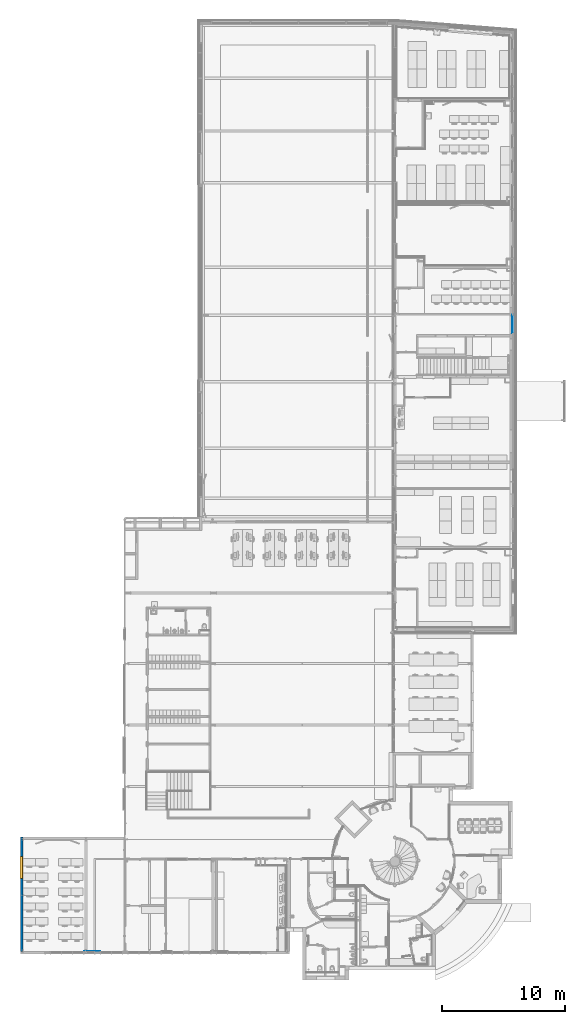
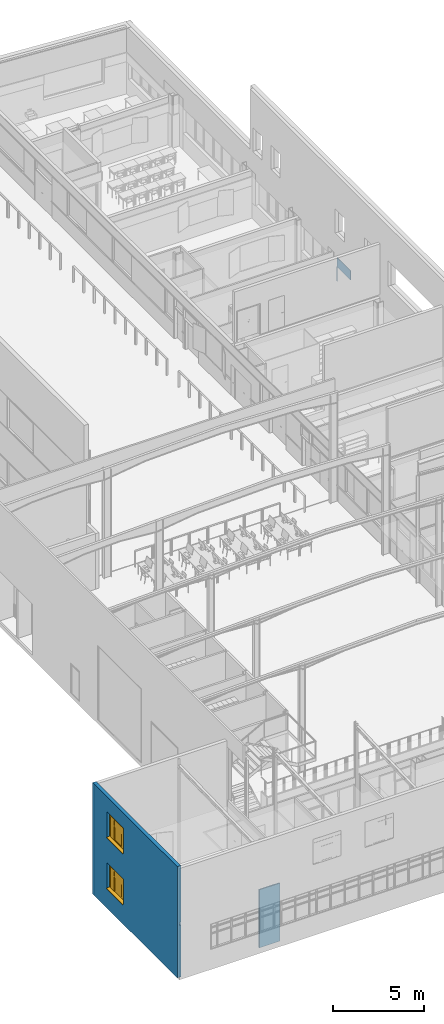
"""IFC2X3 building model written with IfcOpenShell, lengths in centimetres."""

from ifc_helpers import new_model, entity, si_unit, converted_unit, derived_unit, direction, frame, frame_2d, origin, place, context, subcontext, project, spatial, polyline, rectangle, outline, extrude, clip, bounded_halfspace, faceted_brep, source, transform, mapped, material, layer, layer_set, layer_usage, type_object, type_shapes, element, fill, aggregate, save


model = new_model("IFC2X3")

# Units and contexts
model_context = context("Model", 3, precision=0.001, world=origin(), true_north=direction((6.12303176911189e-17, 1.0)))
body_context = subcontext(model_context, "Body", "Model", "MODEL_VIEW")
ifc_project = project(units=[si_unit("LENGTHUNIT", "METRE", prefix="CENTI"), si_unit("AREAUNIT", "SQUARE_METRE"), si_unit("VOLUMEUNIT", "CUBIC_METRE"), converted_unit("PLANEANGLEUNIT", "DEGREE", entity("IfcRatioMeasure", 0.0174532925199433), si_unit("PLANEANGLEUNIT", "RADIAN"), dimensions=[0, 0, 0, 0, 0, 0, 0]), si_unit("MASSUNIT", "GRAM", prefix="KILO"), si_unit("TIMEUNIT", "SECOND"), si_unit("FREQUENCYUNIT", "HERTZ"), si_unit("THERMODYNAMICTEMPERATUREUNIT", "DEGREE_CELSIUS"), derived_unit("THERMALTRANSMITTANCEUNIT", [(si_unit("MASSUNIT", "GRAM", prefix="KILO"), 1), (si_unit("THERMODYNAMICTEMPERATUREUNIT", "KELVIN"), -1), (si_unit("TIMEUNIT", "SECOND"), -3)]), derived_unit("VOLUMETRICFLOWRATEUNIT", [(si_unit("LENGTHUNIT", "METRE"), 3), (si_unit("TIMEUNIT", "SECOND"), -1)]), si_unit("ELECTRICCURRENTUNIT", "AMPERE"), si_unit("ELECTRICVOLTAGEUNIT", "VOLT"), si_unit("POWERUNIT", "WATT"), si_unit("FORCEUNIT", "NEWTON", prefix="KILO"), si_unit("ILLUMINANCEUNIT", "LUX"), si_unit("LUMINOUSFLUXUNIT", "LUMEN"), si_unit("LUMINOUSINTENSITYUNIT", "CANDELA"), derived_unit("USERDEFINED", [(si_unit("MASSUNIT", "GRAM", prefix="KILO"), -1), (si_unit("LENGTHUNIT", "METRE"), -2), (si_unit("TIMEUNIT", "SECOND"), 3), (si_unit("LUMINOUSFLUXUNIT", "LUMEN"), 1)]), derived_unit("LINEARVELOCITYUNIT", [(si_unit("LENGTHUNIT", "METRE"), 1), (si_unit("TIMEUNIT", "SECOND"), -1)]), si_unit("PRESSUREUNIT", "PASCAL"), derived_unit("USERDEFINED", [(si_unit("LENGTHUNIT", "METRE"), -2), (si_unit("MASSUNIT", "GRAM", prefix="KILO"), 1), (si_unit("TIMEUNIT", "SECOND"), -2)])], contexts=[model_context])

# Site, building, storey
site_placement = place(None, frame((8.62739174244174, -249.285249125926, 0.0)))
site = spatial("IfcSite", under=ifc_project, at=site_placement, Name="Default", CompositionType="ELEMENT")
building_placement = place(site_placement, origin())
building = spatial("IfcBuilding", under=site, at=building_placement, CompositionType="ELEMENT")
storey_1_placement = place(building_placement, origin())
storey_1 = spatial("IfcBuildingStorey", under=building, at=storey_1_placement, Name="RDC", CompositionType="ELEMENT", Elevation=-8.82465566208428e-11)

# Curtain wall, plate
curtain_wall_type = type_object("IfcCurtainWallType", Name="Mur-rideau:Simple panneau", PredefinedType="NOTDEFINED")
curtain_wall_placement = place(storey_1_placement, origin())
curtain_wall = element("IfcCurtainWall", 1, at=curtain_wall_placement, inside=storey_1, type_object=curtain_wall_type, Name="Mur-rideau:Simple panneau", ObjectType="Mur-rideau:Simple panneau")
ifc_material_1 = material(Name="Verre")
plate_type = type_object("IfcPlateType", Name="Vitré", PredefinedType="CURTAIN_PANEL", material=ifc_material_1)
shared_shape_1 = source(origin(), body_context, "Body", "Brep", [
    faceted_brep([(5.0, 0.0, 0.0), (0.0, 0.0, 0.0), (0.0, 0.0, 98.0), (151.0, 0.0, 98.0), (151.0, 0.0, 160.0), (5.0, 0.0, 160.0), (5.0, 4.0, 0.0), (5.0, 4.0, 160.0), (151.0, 4.0, 160.0), (151.0, 4.0, 98.0), (0.0, 4.0, 98.0), (0.0, 4.0, 0.0)], [[[0, 1, 2, 3, 4, 5]], [[6, 7, 8, 9, 10, 11]], [[1, 0, 6, 11]], [[2, 1, 11, 10]], [[3, 2, 10, 9]], [[4, 3, 9, 8]], [[5, 4, 8, 7]], [[0, 5, 7, 6]]]),
])
type_shapes(plate_type, [shared_shape_1])
plate_placement = place(curtain_wall_placement, frame((3999.40482781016, 5197.9802081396, 115.0), z_axis=(0.0, 0.0, 1.0), x_axis=(0.0, -1.0, 0.0)))
plate = element("IfcPlate", 2, at=plate_placement, type_object=plate_type, material=ifc_material_1, Name="Panneau système:Vitré", ObjectType="Vitré", context=body_context, shape_type="MappedRepresentation", body=[
    mapped(shared_shape_1, transform((0.0, 0.0, 0.0), scale=1.0)),
])
aggregate(curtain_wall, [plate])

# Wall
ifc_material_2 = material(Name="Plâtre EXISTANT")
ifc_layer_1 = layer(ifc_material_2, 7.0)
ifc_layer_set_1 = layer_set([ifc_layer_1], Name="Mur de base:PLA EXISTANT 7")
ifc_layer_usage_1 = layer_usage(ifc_layer_set_1, "AXIS2", "NEGATIVE", 3.5)
wall_type_1 = type_object("IfcWallType", Name="Mur de base:PLA EXISTANT 7", PredefinedType="STANDARD", material=ifc_layer_set_1)
wall_1_placement = place(storey_1_placement, frame((516.500000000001, 18.4999999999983, 0.0)))
element("IfcWallStandardCase", 3, at=wall_1_placement, inside=storey_1, type_object=wall_type_1, material=ifc_layer_usage_1, Name="Mur de base:PLA EXISTANT 7", ObjectType="Mur de base:PLA EXISTANT 7", context=body_context, shape_type="SweptSolid", body=[
    extrude(rectangle(XDim=130.0, YDim=7.0, at=frame_2d((64.9999999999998, 0.0), x_axis=(-1.0, 0.0))), origin(), (0.0, 0.0, 1.0), 390.0),
])

# Wall, openings, window
ifc_material_3 = material(Name="Tôle/Doublage")
ifc_layer_2 = layer(ifc_material_3, 4.0)
ifc_material_4 = material(Name="Laine minérale")
ifc_layer_3 = layer(ifc_material_4, 16.0)
ifc_material_5 = material(Name="Plâtre")
ifc_layer_4 = layer(ifc_material_5, 2.0)
ifc_layer_set_2 = layer_set([ifc_layer_2, ifc_layer_3, ifc_layer_4], Name="Mur de base:MET 4 + ISO 16 + PLA 2")
ifc_layer_usage_2 = layer_usage(ifc_layer_set_2, "AXIS2", "NEGATIVE", 11.0)
wall_type_2 = type_object("IfcWallType", Name="Mur de base:MET 4 + ISO 16 + PLA 2", PredefinedType="STANDARD", material=ifc_layer_set_2)
wall_2_placement = place(storey_1_placement, frame((11.0, 22.0, -25.0), z_axis=(0.0, 0.0, 1.0), x_axis=(0.0, 1.0, 0.0)))
wall_2 = element("IfcWallStandardCase", 4, at=wall_2_placement, inside=storey_1, type_object=wall_type_2, material=ifc_layer_usage_2, Name="Mur de base:MET 4 + ISO 16 + PLA 2", ObjectType="Mur de base:MET 4 + ISO 16 + PLA 2", context=body_context, shape_type="Clipping", body=[
    clip(extrude(rectangle(XDim=909.0, YDim=22.0, at=frame_2d((454.5, -8.88178419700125e-16), x_axis=(-1.0, 0.0))), origin(), (0.0, 0.0, 1.0), 747.000000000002), bounded_halfspace(frame((0.0, -2.98020806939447, 368.0), z_axis=(0.0, 1.0, 0.0), x_axis=(0.0, 0.0, 1.0)), True, frame((0.0, -2.98020806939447, 368.0), z_axis=(0.0, 1.0, 0.0), x_axis=(0.0, 0.0, 1.0)), polyline([(0.0, 0.0), (0.0, 909.0), (-21.0, 909.0), (-21.0, 0.0), (0.0, 0.0)]))),
])
opening_1_placement = place(wall_2_placement, frame((592.5, -11.0, 135.0)))
opening_1 = element("IfcOpeningElement", 5, at=opening_1_placement, cuts=wall_2, Name="V_90x100-I_90x40:V_90x100-I_90x40:1", ObjectType="Opening", context=body_context, shape_type="SweptSolid", body=[
    extrude(rectangle(XDim=169.999999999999, YDim=180.0, at=frame_2d((84.9999999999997, 89.9999999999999), x_axis=(1.0, 0.0))), frame((0.0, 0.0, 0.0), z_axis=(0.0, 1.0, 0.0), x_axis=(0.0, 0.0, 1.0)), (0.0, 0.0, 1.0), 22.0),
])
opening_2_placement = place(wall_2_placement, frame((592.5, -11.0, 476.0)))
opening_2 = element("IfcOpeningElement", 6, at=opening_2_placement, cuts=wall_2, Name="V_90x100-I_90x40:V_90x100-I_90x40:1", ObjectType="Opening", context=body_context, shape_type="SweptSolid", body=[
    extrude(rectangle(XDim=169.999999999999, YDim=180.0, at=frame_2d((84.9999999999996, 89.9999999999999), x_axis=(1.0, 0.0))), frame((0.0, 0.0, 0.0), z_axis=(0.0, 1.0, 0.0), x_axis=(0.0, 0.0, 1.0)), (0.0, 0.0, 1.0), 22.0),
])
window_style = type_object("IfcWindowStyle", Name="V_90x100-I_90x40", ConstructionType="NOTDEFINED", OperationType="NOTDEFINED", ParameterTakesPrecedence=False, Sizeable=False, material=ifc_material_1)
shared_shape_2 = source(origin(), body_context, "Body", "SweptSolid", [
    extrude(outline(polyline([(-50.9, -41.0), (-50.9, -49.0), (-29.9000000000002, -49.0), (-29.9000000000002, -85.0), (-21.8999999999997, -85.0), (-21.8999999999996, -49.0), (109.099999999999, -49.0), (109.099999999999, -41.0), (17.1000000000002, -41.0), (17.1000000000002, 41.0), (109.1, 41.0), (109.1, 49.0), (-21.8999999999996, 49.0), (-21.8999999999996, 85.0), (-29.9000000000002, 85.0), (-29.9000000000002, 49.0), (-50.8999999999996, 49.0), (-50.8999999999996, 41.0), (-29.9000000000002, 41.0), (-29.9000000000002, -41.0), (-50.9, -41.0)]), holes=[polyline([(9.09999999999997, 41.0), (9.09999999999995, -41.0), (-21.8999999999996, -41.0), (-21.8999999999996, 41.0), (9.09999999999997, 41.0)])]), frame((90.0, 5.0, 114.099999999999), z_axis=(0.0, 1.0, 0.0), x_axis=(0.0, 0.0, -1.0)), (0.0, 0.0, -1.0), 5.0),
    extrude(outline(polyline([(-90.0, -85.0), (90.0, -85.0), (90.0, 85.0), (-90.0, 85.0), (-90.0, -85.0)]), holes=[polyline([(-85.0, 80.0), (85.0, 80.0), (85.0, -80.0), (-85.0, -80.0), (-85.0, 80.0)])]), frame((90.0, 5.0, 85.0), z_axis=(0.0, -1.0, 0.0), x_axis=(1.0, 0.0, 0.0)), (0.0, 0.0, 1.0), 4.99999999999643),
    extrude(rectangle(XDim=73.9999999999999, YDim=2.0, at=frame_2d((0.0, -8.88178419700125e-16), x_axis=(1.0, 0.0))), frame((90.0, 2.5, 9.0)), (0.0, 0.0, 1.0), 83.9999999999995),
    extrude(outline(polyline([(-41.0, -46.0), (41.0, -46.0), (41.0, 46.0), (-41.0, 46.0), (-41.0, -46.0)]), holes=[polyline([(-37.0, 42.0), (37.0, 42.0), (37.0, -42.0), (-37.0, -42.0), (-37.0, 42.0)])]), frame((90.0, 4.5, 51.0), z_axis=(0.0, -1.0, 0.0), x_axis=(1.0, 0.0, 0.0)), (0.0, 0.0, 1.0), 4.0),
    extrude(rectangle(XDim=36.0, YDim=3.0, at=frame_2d((0.0, -3.33066907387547e-16), x_axis=(1.0, 0.0))), frame((23.0, 2.5, 5.0)), (0.0, 0.0, 1.0), 130.999999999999),
    extrude(rectangle(XDim=36.0000000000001, YDim=3.0, at=frame_2d((-7.105427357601e-15, -3.33066907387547e-16), x_axis=(1.0, 0.0))), frame((157.0, 2.5, 5.0)), (0.0, 0.0, 1.0), 130.999999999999),
    extrude(rectangle(XDim=82.0, YDim=3.0, at=frame_2d((0.0, -3.33066907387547e-16), x_axis=(1.0, 0.0))), frame((90.0, 2.5, 105.0)), (0.0, 0.0, 1.0), 30.9999999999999),
    extrude(rectangle(XDim=35.9999999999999, YDim=3.0, at=frame_2d((0.0, -3.33066907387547e-16), x_axis=(1.0, 0.0))), frame((23.0, 2.5, 144.0)), (0.0, 0.0, 1.0), 20.9999999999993),
    extrude(rectangle(XDim=36.0, YDim=3.0, at=frame_2d((-3.5527136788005e-15, -3.33066907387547e-16), x_axis=(1.0, 0.0))), frame((157.0, 2.5, 144.0)), (0.0, 0.0, 1.0), 20.9999999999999),
    extrude(rectangle(XDim=82.0, YDim=3.0, at=frame_2d((0.0, -3.33066907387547e-16), x_axis=(1.0, 0.0))), frame((90.0, 2.5, 144.0)), (0.0, 0.0, 1.0), 20.9999999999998),
    extrude(outline(polyline([(-1.67221806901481, -5.87500000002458), (2.32778193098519, -5.87500000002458), (2.32778193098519, -3.87500000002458), (1.8277819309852, -3.87500000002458), (1.8277819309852, -5.37500000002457), (-1.1722180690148, -5.37500000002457), (-2.46586408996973, 15.1250000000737), (-3.0008274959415, 15.1250000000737), (-1.67221806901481, -5.87500000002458)])), frame((180.0, 20.1250000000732, -0.000827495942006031), z_axis=(-1.0, 0.0, 0.0), x_axis=(0.0, 0.0, -1.0)), (0.0, 0.0, 1.0), 180.0),
])
type_shapes(window_style, [shared_shape_2])
window_1_placement = place(opening_1_placement, origin())
window_1 = element("IfcWindow", 7, at=window_1_placement, inside=storey_1, type_object=window_style, material=ifc_material_1, Name="V_90x100-I_90x40:V_90x100-I_90x40", ObjectType="V_90x100-I_90x40", OverallHeight=169.999999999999, OverallWidth=180.0, context=body_context, shape_type="MappedRepresentation", body=[
    mapped(shared_shape_2, transform((0.0, 0.0, 0.0), scale=1.0)),
])
fill(opening_1, window_1)

# Storey
storey_2_placement = place(building_placement, frame((0.0, 0.0, 343.0)))
storey_2 = spatial("IfcBuildingStorey", under=building, at=storey_2_placement, Name="R+1", CompositionType="ELEMENT", Elevation=343.0)

# Window
window_2_placement = place(opening_2_placement, origin())
window_2 = element("IfcWindow", 8, at=window_2_placement, inside=storey_2, type_object=window_style, material=ifc_material_1, Name="V_90x100-I_90x40:V_90x100-I_90x40", ObjectType="V_90x100-I_90x40", OverallHeight=169.999999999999, OverallWidth=180.0, context=body_context, shape_type="MappedRepresentation", body=[
    mapped(shared_shape_2, transform((0.0, 0.0, 0.0), scale=1.0)),
])

fill(opening_2, window_2)

# Wall, openings, windows
ifc_layer_usage_3 = layer_usage(ifc_layer_set_2, "AXIS2", "NEGATIVE", 11.0)
wall_3_placement = place(storey_1_placement, frame((11.0, 22.0, -25.0), z_axis=(0.0, 0.0, 1.0), x_axis=(0.0, 1.0, 0.0)))
wall_3 = element("IfcWallStandardCase", 9, at=wall_3_placement, inside=storey_1, type_object=wall_type_2, material=ifc_layer_usage_3, Name="Mur de base:MET 4 + ISO 16 + PLA 2", ObjectType="Mur de base:MET 4 + ISO 16 + PLA 2", context=body_context, shape_type="SweptSolid", body=[
    extrude(rectangle(XDim=931.000000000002, YDim=22.0, at=frame_2d((465.500000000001, -1.77635683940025e-15), x_axis=(-1.0, 0.0))), origin(), (0.0, 0.0, 1.0), 747.000000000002),
])
opening_3_placement = place(wall_3_placement, frame((592.5, -11.0, 135.0)))
opening_3 = element("IfcOpeningElement", 10, at=opening_3_placement, cuts=wall_3, Name="V_90x100-I_90x40:V_90x100-I_90x40:1", ObjectType="Opening", context=body_context, shape_type="SweptSolid", body=[
    extrude(rectangle(XDim=169.999999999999, YDim=180.0, at=frame_2d((84.9999999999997, 89.9999999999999), x_axis=(1.0, 0.0))), frame((0.0, 0.0, 0.0), z_axis=(0.0, 1.0, 0.0), x_axis=(0.0, 0.0, 1.0)), (0.0, 0.0, 1.0), 22.0),
])
opening_4_placement = place(wall_3_placement, frame((592.5, -11.0, 476.0)))
opening_4 = element("IfcOpeningElement", 11, at=opening_4_placement, cuts=wall_3, Name="V_90x100-I_90x40:V_90x100-I_90x40:1", ObjectType="Opening", context=body_context, shape_type="SweptSolid", body=[
    extrude(rectangle(XDim=169.999999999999, YDim=180.0, at=frame_2d((84.9999999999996, 89.9999999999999), x_axis=(1.0, 0.0))), frame((0.0, 0.0, 0.0), z_axis=(0.0, 1.0, 0.0), x_axis=(0.0, 0.0, 1.0)), (0.0, 0.0, 1.0), 22.0),
])
window_3_placement = place(opening_3_placement, origin())
window_3 = element("IfcWindow", 12, at=window_3_placement, inside=storey_1, type_object=window_style, material=ifc_material_1, Name="V_90x100-I_90x40:V_90x100-I_90x40", ObjectType="V_90x100-I_90x40", OverallHeight=169.999999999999, OverallWidth=180.0, context=body_context, shape_type="MappedRepresentation", body=[
    mapped(shared_shape_2, transform((0.0, 0.0, 0.0), scale=1.0)),
])
fill(opening_3, window_3)
window_4_placement = place(opening_4_placement, origin())
window_4 = element("IfcWindow", 13, at=window_4_placement, inside=storey_2, type_object=window_style, material=ifc_material_1, Name="V_90x100-I_90x40:V_90x100-I_90x40", ObjectType="V_90x100-I_90x40", OverallHeight=169.999999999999, OverallWidth=180.0, context=body_context, shape_type="MappedRepresentation", body=[
    mapped(shared_shape_2, transform((0.0, 0.0, 0.0), scale=1.0)),
])
fill(opening_4, window_4)

save(model, "model.ifc")
